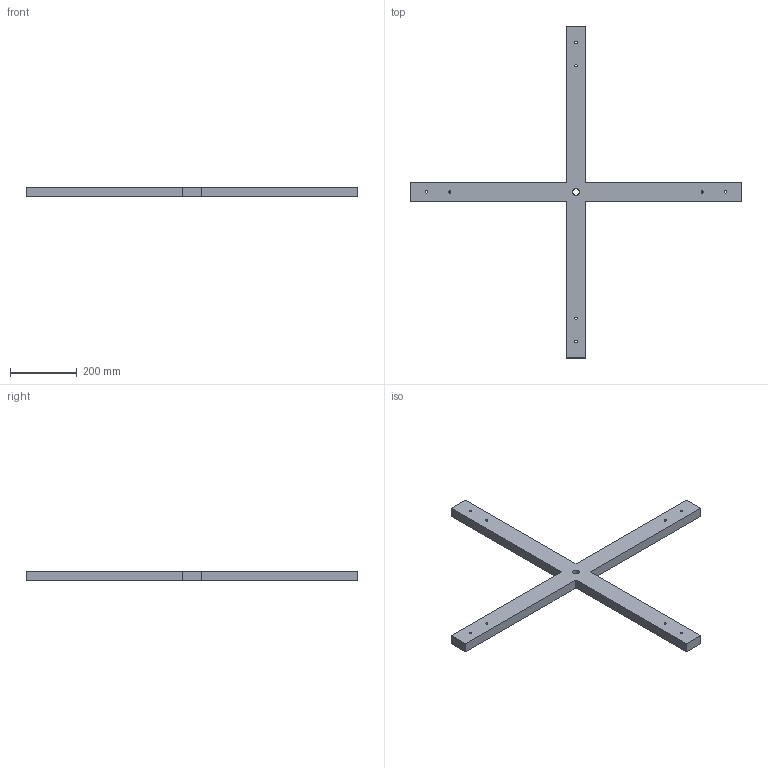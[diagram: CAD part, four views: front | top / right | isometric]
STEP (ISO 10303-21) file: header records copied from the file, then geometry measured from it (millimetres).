
FILE_DESCRIPTION( ( 'STEP AP214' ), '1' );
FILE_NAME( 'D:/Yug/2021/Delta/desk_and_office_organisation/QC/48531.stp', '2021-01-20T05:59:47', ( '' ), ( '' ), ' ', 'PARTsolutions', ' ' );
FILE_SCHEMA( ( 'AUTOMOTIVE_DESIGN { 1 0 10303 214 1 1 1 1 }' ) );
Length unit declared in the file: millimetre
Products named in the file (1): _48531
Bounding box: 998 x 998 x 30 mm (x, y, z)
Volume: 3466138.9 mm3; surface area: 357998.8 mm2
Topology: 1 solids, 1 shells, 23 faces, 63 edges, 42 vertices
Faces by surface type: plane 14, cylinder 9
Full cylindrical faces by diameter (mm): 7 x8, 20 x1
Entity records: 926 total; most frequent: CARTESIAN_POINT 120, DIRECTION 120, ORIENTED_EDGE 108, EDGE_CURVE 54, EDGE_LOOP 50, AXIS2_PLACEMENT_3D 42, VERTEX_POINT 42, LINE 36
